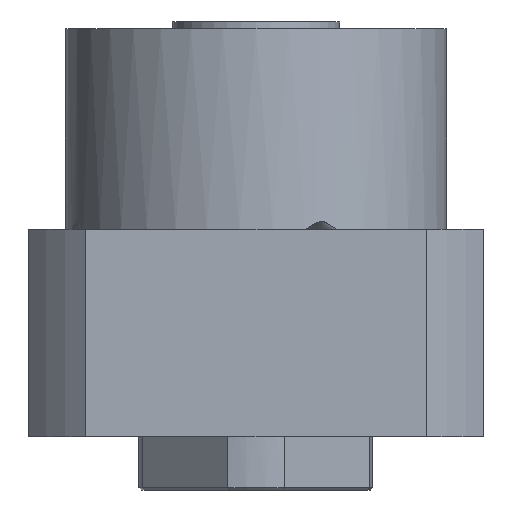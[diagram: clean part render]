
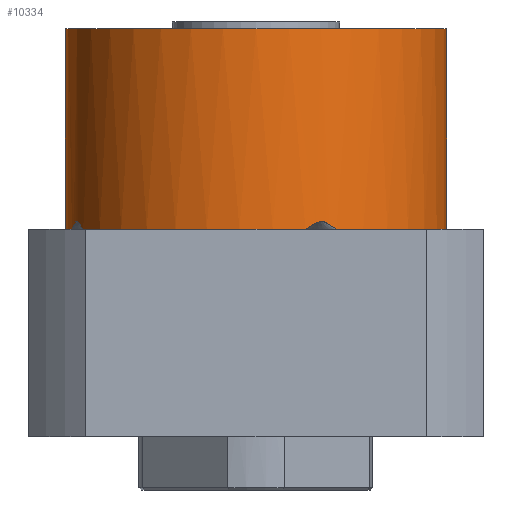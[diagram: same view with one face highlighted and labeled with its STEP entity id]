
A CAD part, front view. The second image highlights one B-rep face of the part: STEP entity #10334.
In plain terms, the highlighted cylindrical face has radius 28.5 mm (diameter 57 mm), a partial arc.
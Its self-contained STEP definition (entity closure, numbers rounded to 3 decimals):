
#48 = EDGE_CURVE ( 'NONE', #8068, #9791, #6620, .T. ) ;
#86 = DIRECTION ( 'NONE',  ( 0., 0., 1. ) ) ;
#164 = VERTEX_POINT ( 'NONE', #6098 ) ;
#266 = CARTESIAN_POINT ( 'NONE',  ( -26.675, -10.037, 13.157 ) ) ;
#316 = CARTESIAN_POINT ( 'NONE',  ( 9.291, -26.943, 13.09 ) ) ;
#347 = B_SPLINE_CURVE_WITH_KNOTS ( 'NONE', 3,
 ( #1394, #3963, #5627, #420 ),
 .UNSPECIFIED., .F., .F.,
 ( 4, 4 ),
 ( 0.004, 0.006 ),
 .UNSPECIFIED. ) ;
#348 = CARTESIAN_POINT ( 'NONE',  ( 9.443, -26.891, 13.159 ) ) ;
#420 = CARTESIAN_POINT ( 'NONE',  ( 12.031, -25.836, 12. ) ) ;
#748 = CARTESIAN_POINT ( 'NONE',  ( -27.008, -9.101, 12.996 ) ) ;
#798 = ORIENTED_EDGE ( 'NONE', *, *, #1420, .T. ) ;
#848 = EDGE_CURVE ( 'NONE', #9791, #3841, #2355, .T. ) ;
#1137 = AXIS2_PLACEMENT_3D ( 'NONE', #4176, #6790, #4127 ) ;
#1294 = VERTEX_POINT ( 'NONE', #3738 ) ;
#1394 = CARTESIAN_POINT ( 'NONE',  ( 10.953, -26.311, 12.675 ) ) ;
#1420 = EDGE_CURVE ( 'NONE', #3841, #1294, #347, .T. ) ;
#1573 = CARTESIAN_POINT ( 'NONE',  ( 7.391, -27.525, 12. ) ) ;
#1678 = CARTESIAN_POINT ( 'NONE',  ( -27.428, -7.75, 12.217 ) ) ;
#1764 = ORIENTED_EDGE ( 'NONE', *, *, #4004, .T. ) ;
#1775 = CARTESIAN_POINT ( 'NONE',  ( 28.5, 0., 12. ) ) ;
#1821 = DIRECTION ( 'NONE',  ( 1., 0., 0. ) ) ;
#1990 = EDGE_CURVE ( 'NONE', #10843, #2464, #6614, .T. ) ;
#2032 = CARTESIAN_POINT ( 'NONE',  ( -26.432, -10.66, 12.849 ) ) ;
#2355 = B_SPLINE_CURVE_WITH_KNOTS ( 'NONE', 3,
 ( #6295, #4652, #5380, #2843, #2965, #7132, #2883, #316, #348, #6368, #8789, #3634, #10506, #8875, #8830, #7983, #3683, #6340 ),
 .UNSPECIFIED., .F., .F.,
 ( 4, 2, 2, 2, 2, 2, 2, 2, 4 ),
 ( 0., 0.001, 0.002, 0.002, 0.003, 0.003, 0.003, 0.004, 0.004 ),
 .UNSPECIFIED. ) ;
#2450 = VECTOR ( 'NONE', #3280, 1000. ) ;
#2464 = VERTEX_POINT ( 'NONE', #1775 ) ;
#2487 = CARTESIAN_POINT ( 'NONE',  ( -26.912, -9.381, 13.125 ) ) ;
#2528 = ORIENTED_EDGE ( 'NONE', *, *, #48, .T. ) ;
#2572 = CARTESIAN_POINT ( 'NONE',  ( 0., 0., 12. ) ) ;
#2843 = CARTESIAN_POINT ( 'NONE',  ( 8.408, -27.232, 12.609 ) ) ;
#2883 = CARTESIAN_POINT ( 'NONE',  ( 8.992, -27.045, 12.942 ) ) ;
#2965 = CARTESIAN_POINT ( 'NONE',  ( 8.553, -27.187, 12.694 ) ) ;
#2989 = CARTESIAN_POINT ( 'NONE',  ( -26.634, -10.144, 13.113 ) ) ;
#3280 = DIRECTION ( 'NONE',  ( 0., 0., -1. ) ) ;
#3381 = CARTESIAN_POINT ( 'NONE',  ( 28.5, 0., 42. ) ) ;
#3460 = DIRECTION ( 'NONE',  ( 1., 0., 0. ) ) ;
#3466 = CARTESIAN_POINT ( 'NONE',  ( -26.843, -9.577, 13.183 ) ) ;
#3608 = ORIENTED_EDGE ( 'NONE', *, *, #5061, .T. ) ;
#3634 = CARTESIAN_POINT ( 'NONE',  ( 9.931, -26.714, 13.184 ) ) ;
#3671 = CYLINDRICAL_SURFACE ( 'NONE', #4349, 28.5 ) ;
#3683 = CARTESIAN_POINT ( 'NONE',  ( 10.813, -26.37, 12.759 ) ) ;
#3738 = CARTESIAN_POINT ( 'NONE',  ( 12.031, -25.836, 12. ) ) ;
#3841 = VERTEX_POINT ( 'NONE', #7642 ) ;
#3885 = EDGE_CURVE ( 'NONE', #1294, #2464, #5383, .T. ) ;
#3963 = CARTESIAN_POINT ( 'NONE',  ( 11.318, -26.159, 12.456 ) ) ;
#4004 = EDGE_CURVE ( 'NONE', #9923, #164, #10298, .T. ) ;
#4127 = DIRECTION ( 'NONE',  ( 1., 0., 0. ) ) ;
#4136 = CARTESIAN_POINT ( 'NONE',  ( 28.5, 0., 42. ) ) ;
#4142 = EDGE_LOOP ( 'NONE', ( #10444, #5629, #1764, #8326, #4567, #3608, #2528, #8121, #798, #5880 ) ) ;
#4176 = CARTESIAN_POINT ( 'NONE',  ( 0., 0., 12. ) ) ;
#4270 = DIRECTION ( 'NONE',  ( 1., 0., 0. ) ) ;
#4349 = AXIS2_PLACEMENT_3D ( 'NONE', #6682, #7602, #10196 ) ;
#4512 = DIRECTION ( 'NONE',  ( 0., 0., -1. ) ) ;
#4567 = ORIENTED_EDGE ( 'NONE', *, *, #6373, .T. ) ;
#4652 = CARTESIAN_POINT ( 'NONE',  ( 7.682, -27.447, 12.176 ) ) ;
#4719 = B_SPLINE_CURVE_WITH_KNOTS ( 'NONE', 3,
 ( #5076, #1678, #7723, #8453, #6778, #748, #10273, #2487, #6894, #3466 ),
 .UNSPECIFIED., .F., .F.,
 ( 4, 2, 2, 2, 4 ),
 ( 0., 0.001, 0.002, 0.002, 0.003 ),
 .UNSPECIFIED. ) ;
#4868 = B_SPLINE_CURVE_WITH_KNOTS ( 'NONE', 3,
 ( #7190, #8041, #7158, #266, #2989, #9833, #2032, #10613, #8004, #5518 ),
 .UNSPECIFIED., .F., .F.,
 ( 4, 2, 2, 2, 4 ),
 ( 0.003, 0.003, 0.003, 0.004, 0.006 ),
 .UNSPECIFIED. ) ;
#5061 = EDGE_CURVE ( 'NONE', #10151, #8068, #4868, .T. ) ;
#5076 = CARTESIAN_POINT ( 'NONE',  ( -27.525, -7.391, 12. ) ) ;
#5153 = CARTESIAN_POINT ( 'NONE',  ( 0., 0., 12. ) ) ;
#5380 = CARTESIAN_POINT ( 'NONE',  ( 7.972, -27.364, 12.351 ) ) ;
#5383 = CIRCLE ( 'NONE', #5646, 28.5 ) ;
#5518 = CARTESIAN_POINT ( 'NONE',  ( -25.836, -12.031, 12. ) ) ;
#5627 = CARTESIAN_POINT ( 'NONE',  ( 11.676, -26.001, 12.228 ) ) ;
#5629 = ORIENTED_EDGE ( 'NONE', *, *, #7894, .F. ) ;
#5646 = AXIS2_PLACEMENT_3D ( 'NONE', #2572, #86, #1821 ) ;
#5706 = FACE_OUTER_BOUND ( 'NONE', #4142, .T. ) ;
#5880 = ORIENTED_EDGE ( 'NONE', *, *, #3885, .T. ) ;
#5959 = CARTESIAN_POINT ( 'NONE',  ( -28.5, 0., 42. ) ) ;
#6098 = CARTESIAN_POINT ( 'NONE',  ( -28.5, 0., 12. ) ) ;
#6295 = CARTESIAN_POINT ( 'NONE',  ( 7.391, -27.525, 12. ) ) ;
#6340 = CARTESIAN_POINT ( 'NONE',  ( 10.953, -26.311, 12.675 ) ) ;
#6350 = CARTESIAN_POINT ( 'NONE',  ( -28.5, 0., 42. ) ) ;
#6368 = CARTESIAN_POINT ( 'NONE',  ( 9.688, -26.803, 13.203 ) ) ;
#6373 = EDGE_CURVE ( 'NONE', #6447, #10151, #4719, .T. ) ;
#6447 = VERTEX_POINT ( 'NONE', #10486 ) ;
#6490 = CIRCLE ( 'NONE', #6505, 28.5 ) ;
#6505 = AXIS2_PLACEMENT_3D ( 'NONE', #5153, #7678, #3460 ) ;
#6614 = LINE ( 'NONE', #4136, #2450 ) ;
#6620 = CIRCLE ( 'NONE', #1137, 28.5 ) ;
#6682 = CARTESIAN_POINT ( 'NONE',  ( 0., 0., 42. ) ) ;
#6778 = CARTESIAN_POINT ( 'NONE',  ( -27.099, -8.827, 12.852 ) ) ;
#6790 = DIRECTION ( 'NONE',  ( 0., 0., 1. ) ) ;
#6869 = CIRCLE ( 'NONE', #8863, 28.5 ) ;
#6894 = CARTESIAN_POINT ( 'NONE',  ( -26.878, -9.477, 13.161 ) ) ;
#6901 = CARTESIAN_POINT ( 'NONE',  ( 0., 0., 42. ) ) ;
#7132 = CARTESIAN_POINT ( 'NONE',  ( 8.846, -27.093, 12.86 ) ) ;
#7158 = CARTESIAN_POINT ( 'NONE',  ( -26.759, -9.808, 13.207 ) ) ;
#7190 = CARTESIAN_POINT ( 'NONE',  ( -26.843, -9.577, 13.183 ) ) ;
#7602 = DIRECTION ( 'NONE',  ( 0., 0., -1. ) ) ;
#7642 = CARTESIAN_POINT ( 'NONE',  ( 10.953, -26.311, 12.675 ) ) ;
#7678 = DIRECTION ( 'NONE',  ( 0., 0., 1. ) ) ;
#7723 = CARTESIAN_POINT ( 'NONE',  ( -27.325, -8.108, 12.433 ) ) ;
#7729 = DIRECTION ( 'NONE',  ( 0., 0., 1. ) ) ;
#7894 = EDGE_CURVE ( 'NONE', #9923, #10843, #6869, .T. ) ;
#7983 = CARTESIAN_POINT ( 'NONE',  ( 10.672, -26.427, 12.842 ) ) ;
#8004 = CARTESIAN_POINT ( 'NONE',  ( -26.015, -11.646, 12.248 ) ) ;
#8041 = CARTESIAN_POINT ( 'NONE',  ( -26.802, -9.691, 13.207 ) ) ;
#8068 = VERTEX_POINT ( 'NONE', #10649 ) ;
#8121 = ORIENTED_EDGE ( 'NONE', *, *, #848, .T. ) ;
#8308 = VECTOR ( 'NONE', #4512, 1000. ) ;
#8326 = ORIENTED_EDGE ( 'NONE', *, *, #10439, .T. ) ;
#8453 = CARTESIAN_POINT ( 'NONE',  ( -27.157, -8.647, 12.748 ) ) ;
#8789 = CARTESIAN_POINT ( 'NONE',  ( 9.77, -26.773, 13.206 ) ) ;
#8830 = CARTESIAN_POINT ( 'NONE',  ( 10.385, -26.541, 13. ) ) ;
#8858 = CARTESIAN_POINT ( 'NONE',  ( -26.843, -9.577, 13.183 ) ) ;
#8863 = AXIS2_PLACEMENT_3D ( 'NONE', #6901, #7729, #4270 ) ;
#8875 = CARTESIAN_POINT ( 'NONE',  ( 10.24, -26.597, 13.075 ) ) ;
#9791 = VERTEX_POINT ( 'NONE', #1573 ) ;
#9833 = CARTESIAN_POINT ( 'NONE',  ( -26.513, -10.458, 12.967 ) ) ;
#9923 = VERTEX_POINT ( 'NONE', #5959 ) ;
#10151 = VERTEX_POINT ( 'NONE', #8858 ) ;
#10196 = DIRECTION ( 'NONE',  ( -1., 0., 0. ) ) ;
#10273 = CARTESIAN_POINT ( 'NONE',  ( -26.977, -9.193, 13.043 ) ) ;
#10298 = LINE ( 'NONE', #6350, #8308 ) ;
#10334 = ADVANCED_FACE ( 'NONE', ( #5706 ), #3671, .T. ) ;
#10439 = EDGE_CURVE ( 'NONE', #164, #6447, #6490, .T. ) ;
#10444 = ORIENTED_EDGE ( 'NONE', *, *, #1990, .F. ) ;
#10486 = CARTESIAN_POINT ( 'NONE',  ( -27.525, -7.391, 12. ) ) ;
#10506 = CARTESIAN_POINT ( 'NONE',  ( 10.011, -26.684, 13.161 ) ) ;
#10613 = CARTESIAN_POINT ( 'NONE',  ( -26.186, -11.257, 12.495 ) ) ;
#10649 = CARTESIAN_POINT ( 'NONE',  ( -25.836, -12.031, 12. ) ) ;
#10843 = VERTEX_POINT ( 'NONE', #3381 ) ;
